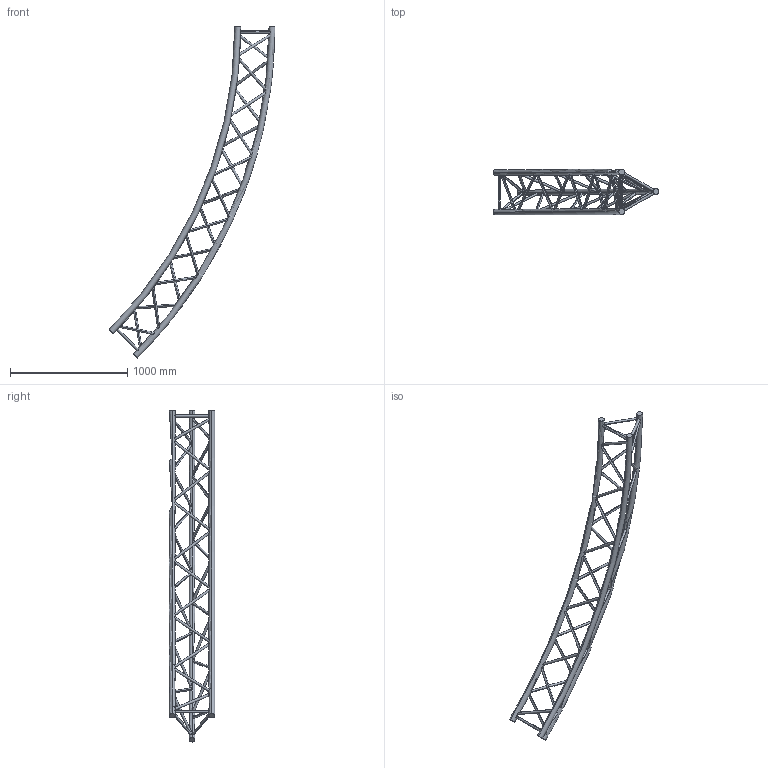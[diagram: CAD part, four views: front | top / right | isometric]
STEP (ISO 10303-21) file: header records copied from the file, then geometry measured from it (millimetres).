
FILE_DESCRIPTION (( 'STEP AP203' ), '1' );
FILE_NAME ('SXC39800PE.STEP', '2009-10-21T12:19:44', ( 'CEDIA' ), ( 'CEDIA INDUSTRIE' ), 'SwSTEP 2.0', 'SolidWorks 2009', '' );
FILE_SCHEMA (( 'CONFIG_CONTROL_DESIGN' ));
Length unit declared in the file: millimetre
Products named in the file (1): SXC39800PE
Bounding box: 1413.3 x 387 x 2828.43 mm (x, y, z)
Volume: 21780156.9 mm3; surface area: 2241696.1 mm2
Topology: 1 solids, 1 shells, 90 faces, 255 edges, 170 vertices
Faces by surface type: cylinder 78, torus 6, plane 6
Entity records: 10499 total; most frequent: CARTESIAN_POINT 8228, ORIENTED_EDGE 510, DIRECTION 298, EDGE_CURVE 255, VERTEX_POINT 170, EDGE_LOOP 167, B_SPLINE_CURVE_WITH_KNOTS 158, AXIS2_PLACEMENT_3D 110
